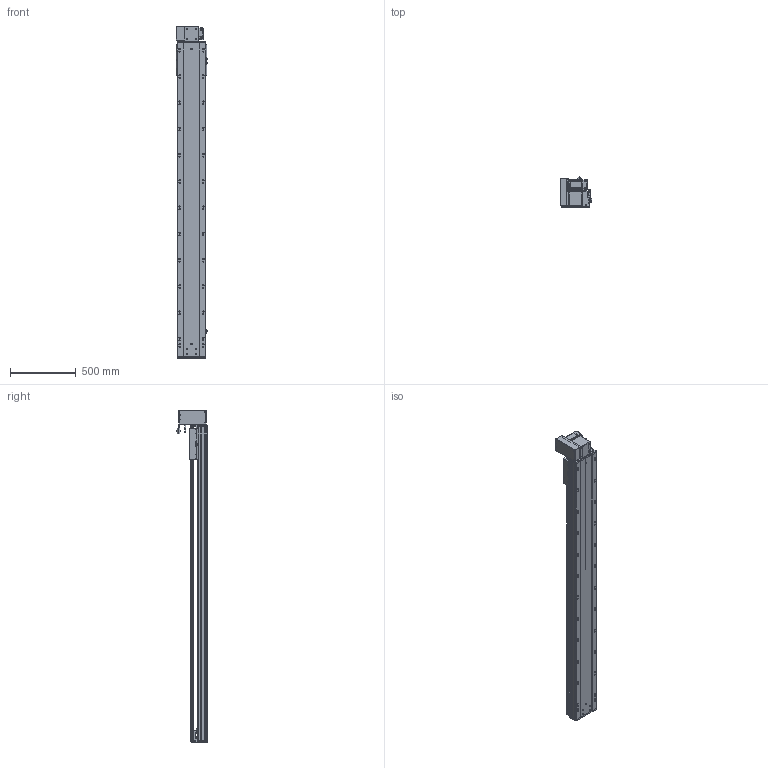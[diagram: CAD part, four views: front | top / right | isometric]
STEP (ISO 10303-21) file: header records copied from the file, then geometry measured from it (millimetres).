
FILE_DESCRIPTION (( 'STEP AP203' ), '1' );
FILE_NAME ('RY220-T-300-UL.SLDASM_2050.step', '2022-07-25T08:35:01', ( '' ), ( '' ), 'SwSTEP 2.0', 'SolidWorks 2016', '' );
FILE_SCHEMA (( 'CONFIG_CONTROL_DESIGN' ));
Length unit declared in the file: millimetre
Products named in the file (14): RY220圉猾敕々湍臏賑輸; RY220-T-蛌殏萇儂假蚾啣(750W); 怢湛750W_ECMA-CX0807ES; 覜茼ん672; RY220-同步轮副支撑座6304×2; RY220翋肮祭謫裔啣; RY220-T-300-奻裔啣_2050; RY220翋肮祭謫釱; RY220-俋离672覜茼んえ; RY220-T菁釱-300_2050; RY220-T-300-UL.SLDASM_2050; 滅袉蝶18-15; RY220-T-湍謫欶(鍼踢); 110A-T-肮祭謫釱傷裔
Assembly tree (18 placements, depth 2):
  RY220-T-300-UL.SLDASM_2050
    RY220-T菁釱-300_2050
    RY220翋肮祭謫釱
    覜茼ん672  x3
    RY220圉猾敕々湍臏賑輸
    RY220-T-300-奻裔啣_2050
    RY220-俋离672覜茼んえ
    滅袉蝶18-15  x3
    RY220翋肮祭謫裔啣  x2
    110A-T-肮祭謫釱傷裔
    怢湛750W_ECMA-CX0807ES
    RY220-T-湍謫欶(鍼踢)
    RY220-T-蛌殏萇儂假蚾啣(750W)
    RY220-同步轮副支撑座6304×2
Bounding box: 239.7 x 231.74 x 2530.5 mm (x, y, z)
Volume: 19052134.5 mm3; surface area: 5795792.9 mm2
Topology: 19 solids, 19 shells, 2844 faces, 7863 edges, 4952 vertices
Faces by surface type: cylinder 1376, plane 1069, cone 317, bspline 56, sphere 16, torus 10
Entity records: 94851 total; most frequent: CARTESIAN_POINT 26907, ORIENTED_EDGE 14074, DIRECTION 13468, EDGE_CURVE 7037, AXIS2_PLACEMENT_3D 4822, VERTEX_POINT 4576, LINE 3824, VECTOR 3824
